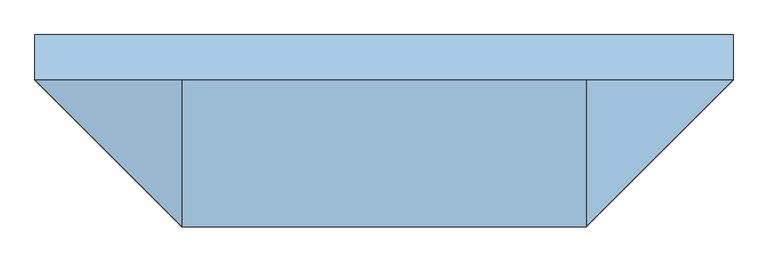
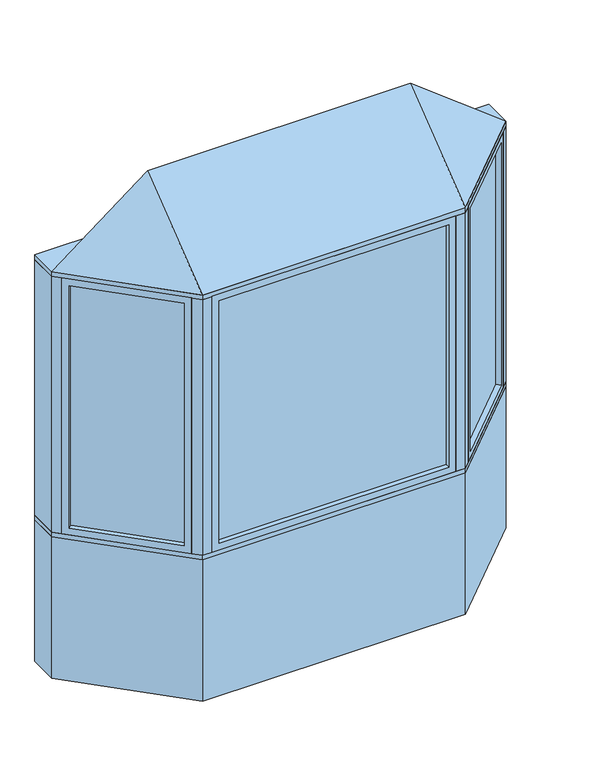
"""IFC4 building model written with IfcOpenShell, lengths in millimetres: window geometry, Pollard_Windows_Tudor Casement Bows and Bays : AML-BAY 45 AFR0614-12-600."""

from ifc_helpers import new_model, si_unit, frame, origin, origin_with_axes, place, context, project, spatial, polyline, outline, extrude, faceted_brep, source, transform, mapped, element, save


def window_9d663ffc(model_context):
    return source(origin(), model_context, "Body", "SolidModel", [
        extrude(outline(polyline([(1110.5964271, -104.763169), (714.974814, -500.3847822), (711.3827115, -496.7926797), (1107.0043247, -101.1710666), (1110.5964271, -104.763169)])), frame((0.0, 0.0, 823.1628), z_axis=(0.0, 0.0, 1.0), x_axis=(1.0, 0.0, 0.0)), (0.0, 0.0, 1.0), 1353.6704),
        faceted_brep([(1101.616171, -113.7434252, 835.8628), (1119.5766833, -131.7039374, 835.8628), (1119.5766833, -131.7039374, 2164.1332), (1101.616171, -113.7434252, 2164.1332), (1107.0043247, -101.1710666, 823.1628), (1110.5964271, -104.763169, 823.1628), (1110.5964271, -104.763169, 2176.8332), (1107.0043247, -101.1710666, 2176.8332), (1080.0635563, -92.1908105, 835.8628), (1098.0240686, -110.1513227, 835.8628), (1098.0240686, -110.1513227, 2164.1332), (1080.0635563, -92.1908105, 2164.1332), (1144.9369265, -106.3436941, 799.998), (1105.4237996, -66.8305672, 799.998), (1105.4237996, -66.8305672, 2199.998), (1144.9369265, -106.3436941, 2199.998), (741.9155823, -509.3650383, 2164.1332), (723.9550701, -491.4045261, 2164.1332), (714.974814, -500.3847822, 2176.8332), (711.3827115, -496.7926797, 2176.8332), (720.3629677, -487.8124236, 2164.1332), (702.4024554, -469.8519114, 2164.1332), (677.0422121, -495.2121547, 2199.998), (716.5553391, -534.7252816, 2199.998), (741.9155823, -509.3650383, 835.8628), (723.9550701, -491.4045261, 835.8628), (714.974814, -500.3847822, 823.1628), (711.3827115, -496.7926797, 823.1628), (720.3629677, -487.8124236, 835.8628), (702.4024554, -469.8519114, 835.8628), (677.0422121, -495.2121547, 799.998), (716.5553391, -534.7252816, 799.998)], [[[0, 1, 2, 3]], [[4, 5, 6, 7]], [[8, 9, 10, 11]], [[12, 13, 14, 15]], [[3, 2, 16, 17]], [[7, 6, 18, 19]], [[11, 10, 20, 21]], [[15, 14, 22, 23]], [[17, 16, 24, 25]], [[19, 18, 26, 27]], [[21, 20, 28, 29]], [[23, 22, 30, 31]], [[25, 24, 1, 0]], [[5, 26, 18, 6], [3, 17, 25, 0]], [[27, 26, 5, 4]], [[7, 19, 27, 4], [9, 28, 20, 10]], [[29, 28, 9, 8]], [[13, 30, 22, 14], [11, 21, 29, 8]], [[31, 30, 13, 12]], [[15, 23, 31, 12], [1, 24, 16, 2]]]),
        extrude(outline(polyline([(-714.974814, -500.3847822), (-1110.5964271, -104.763169), (-1107.0043247, -101.1710666), (-711.3827115, -496.7926797), (-714.974814, -500.3847822)])), frame((0.0, 0.0, 823.1628), z_axis=(0.0, 0.0, 1.0), x_axis=(1.0, 0.0, 0.0)), (0.0, 0.0, 1.0), 1353.6704),
        faceted_brep([(-720.3629677, -487.8124236, 2164.1332), (-702.4024554, -469.8519114, 2164.1332), (-702.4024554, -469.8519114, 835.8628), (-720.3629677, -487.8124236, 835.8628), (-714.974814, -500.3847822, 2176.8332), (-711.3827115, -496.7926797, 2176.8332), (-711.3827115, -496.7926797, 823.1628), (-714.974814, -500.3847822, 823.1628), (-741.9155823, -509.3650383, 2164.1332), (-723.9550701, -491.4045261, 2164.1332), (-723.9550701, -491.4045261, 835.8628), (-741.9155823, -509.3650383, 835.8628), (-677.0422121, -495.2121547, 2199.998), (-716.5553391, -534.7252816, 2199.998), (-716.5553391, -534.7252816, 799.998), (-677.0422121, -495.2121547, 799.998), (-1080.0635563, -92.1908105, 835.8628), (-1098.0240686, -110.1513227, 835.8628), (-1107.0043247, -101.1710666, 823.1628), (-1110.5964271, -104.763169, 823.1628), (-1101.616171, -113.7434252, 835.8628), (-1119.5766833, -131.7039374, 835.8628), (-1144.9369265, -106.3436941, 799.998), (-1105.4237996, -66.8305672, 799.998), (-1080.0635563, -92.1908105, 2164.1332), (-1098.0240686, -110.1513227, 2164.1332), (-1107.0043247, -101.1710666, 2176.8332), (-1110.5964271, -104.763169, 2176.8332), (-1101.616171, -113.7434252, 2164.1332), (-1119.5766833, -131.7039374, 2164.1332), (-1144.9369265, -106.3436941, 2199.998), (-1105.4237996, -66.8305672, 2199.998)], [[[0, 1, 2, 3]], [[4, 5, 6, 7]], [[8, 9, 10, 11]], [[12, 13, 14, 15]], [[3, 2, 16, 17]], [[7, 6, 18, 19]], [[11, 10, 20, 21]], [[15, 14, 22, 23]], [[17, 16, 24, 25]], [[19, 18, 26, 27]], [[21, 20, 28, 29]], [[23, 22, 30, 31]], [[15, 23, 31, 12], [1, 24, 16, 2]], [[25, 24, 1, 0]], [[5, 26, 18, 6], [3, 17, 25, 0]], [[27, 26, 5, 4]], [[7, 19, 27, 4], [9, 28, 20, 10]], [[29, 28, 9, 8]], [[13, 30, 22, 14], [11, 21, 29, 8]], [[31, 30, 13, 12]]]),
        extrude(outline(polyline([(608.0352, -544.6806207), (-608.0352, -544.6806207), (-608.0352, -539.6006207), (608.0352, -539.6006207), (608.0352, -544.6806207)])), frame((0.0, 0.0, 823.1628), z_axis=(0.0, 0.0, 1.0), x_axis=(1.0, 0.0, 0.0)), (0.0, 0.0, 1.0), 1353.6704),
        faceted_brep([(595.3352, -544.6806207, 835.8628), (595.3352, -570.0806207, 835.8628), (595.3352, -570.0806207, 2164.1332), (595.3352, -544.6806207, 2164.1332), (608.0352, -539.6006207, 823.1628), (608.0352, -544.6806207, 823.1628), (608.0352, -544.6806207, 2176.8332), (608.0352, -539.6006207, 2176.8332), (595.3352, -514.2006207, 835.8628), (595.3352, -539.6006207, 835.8628), (595.3352, -539.6006207, 2164.1332), (595.3352, -514.2006207, 2164.1332), (631.2, -570.0806207, 799.998), (631.2, -514.2006207, 799.998), (631.2, -514.2006207, 2199.998), (631.2, -570.0806207, 2199.998), (-595.3352, -570.0806207, 2164.1332), (-595.3352, -544.6806207, 2164.1332), (-608.0352, -544.6806207, 2176.8332), (-608.0352, -539.6006207, 2176.8332), (-595.3352, -539.6006207, 2164.1332), (-595.3352, -514.2006207, 2164.1332), (-631.2, -514.2006207, 2199.998), (-631.2, -570.0806207, 2199.998), (-595.3352, -570.0806207, 835.8628), (-595.3352, -544.6806207, 835.8628), (-608.0352, -544.6806207, 823.1628), (-608.0352, -539.6006207, 823.1628), (-595.3352, -539.6006207, 835.8628), (-595.3352, -514.2006207, 835.8628), (-631.2, -514.2006207, 799.998), (-631.2, -570.0806207, 799.998)], [[[0, 1, 2, 3]], [[4, 5, 6, 7]], [[8, 9, 10, 11]], [[12, 13, 14, 15]], [[3, 2, 16, 17]], [[7, 6, 18, 19]], [[11, 10, 20, 21]], [[15, 14, 22, 23]], [[17, 16, 24, 25]], [[19, 18, 26, 27]], [[21, 20, 28, 29]], [[23, 22, 30, 31]], [[15, 23, 31, 12], [1, 24, 16, 2]], [[25, 24, 1, 0]], [[5, 26, 18, 6], [3, 17, 25, 0]], [[27, 26, 5, 4]], [[7, 19, 27, 4], [9, 28, 20, 10]], [[29, 28, 9, 8]], [[13, 30, 22, 14], [11, 21, 29, 8]], [[31, 30, 13, 12]]]),
        faceted_brep([(1176.5, -74.7806207, 2225.398), (681.2, -570.0806207, 2225.398), (-681.2, -570.0806207, 2225.398), (-1176.5, -74.7806207, 2225.398), (-681.2, -74.7806207, 2606.398), (681.2, -74.7806207, 2606.398)], [[[0, 1, 2, 3]], [[3, 2, 4]], [[2, 1, 5, 4]], [[1, 0, 5]], [[0, 3, 4, 5]]]),
        extrude(outline(polyline([(-1176.5, 77.6193793), (1176.5, 77.6193793), (1176.5, -74.7806207), (681.2, -570.0806207), (-681.2, -570.0806207), (-1176.5, -74.7806207), (-1176.5, 77.6193793)])), frame((0.0, 0.0, 2199.998), z_axis=(0.0, 0.0, 1.0), x_axis=(1.0, 0.0, 0.0)), (0.0, 0.0, 1.0), 25.4),
        extrude(outline(polyline([(-1176.5, -74.7806207), (-1176.5, 77.6193793), (-1113.3738531, 77.6193793), (-1113.3738531, -74.7806207), (-1144.9369265, -106.3436941), (-1176.5, -74.7806207)])), frame((0.0, 0.0, 799.998), z_axis=(0.0, 0.0, 1.0), x_axis=(1.0, 0.0, 0.0)), (0.0, 0.0, 1.0), 1400.0),
        extrude(outline(polyline([(1176.5, 77.6193793), (1176.5, -74.7806207), (1144.9369265, -106.3436941), (1113.3738531, -74.7806207), (1113.3738531, 77.6193793), (1176.5, 77.6193793)])), frame((0.0, 0.0, 799.998), z_axis=(0.0, 0.0, 1.0), x_axis=(1.0, 0.0, 0.0)), (0.0, 0.0, 1.0), 1400.0),
        extrude(outline(polyline([(681.2, -570.0806207), (631.2, -570.0806207), (631.2, -520.0806207), (660.4893219, -520.0806207), (681.2, -499.3699425), (716.5553391, -534.7252816), (681.2, -570.0806207)])), frame((0.0, 0.0, 799.998), z_axis=(0.0, 0.0, 1.0), x_axis=(1.0, 0.0, 0.0)), (0.0, 0.0, 1.0), 1400.0),
        extrude(outline(polyline([(-681.2, -570.0806207), (-716.5553391, -534.7252816), (-681.2, -499.3699425), (-660.4893219, -520.0806207), (-631.2, -520.0806207), (-631.2, -570.0806207), (-681.2, -570.0806207)])), frame((0.0, 0.0, 799.998), z_axis=(0.0, 0.0, 1.0), x_axis=(1.0, 0.0, 0.0)), (0.0, 0.0, 1.0), 1400.0),
        extrude(outline(polyline([(-681.2, -570.0806207), (-1176.5, -74.7806207), (-1176.5, 77.6193793), (-1113.3738531, 77.6193793), (-618.0738531, -417.6806207), (618.0738531, -417.6806207), (1113.3738531, 77.6193793), (1176.5, 77.6193793), (1176.5, -74.7806207), (681.2, -570.0806207), (-681.2, -570.0806207)])), frame((0.0, 0.0, 774.598), z_axis=(0.0, 0.0, 1.0), x_axis=(1.0, 0.0, 0.0)), (0.0, 0.0, 1.0), 25.4),
        extrude(outline(polyline([(-1176.5, -74.7806207), (-1176.5, 77.6193793), (-1113.3738531, 77.6193793), (-618.0738531, -417.6806207), (618.0738531, -417.6806207), (1113.3738531, 77.6193793), (1176.5, 77.6193793), (1176.5, -74.7806207), (681.2, -570.0806207), (-681.2, -570.0806207), (-1176.5, -74.7806207)])), origin_with_axes(), (0.0, 0.0, 1.0), 774.598),
    ])


if __name__ == "__main__":
    model = new_model("IFC4")
    model_context = context("Model", 3, world=origin())
    ifc_project = project(units=[si_unit("LENGTHUNIT", "METRE", prefix="MILLI")], contexts=[model_context])
    site = spatial("IfcSite", under=ifc_project)
    building = spatial("IfcBuilding", under=site)
    placement = place(None, origin())
    window_shape = window_9d663ffc(model_context)
    element("IfcWindow", 1, ObjectType="Pollard_Windows_Tudor Casement Bows and Bays : AML-BAY 45 AFR0614-12-600", at=placement, inside=building, context=model_context, shape_type="MappedRepresentation", body=[
        mapped(window_shape, transform((0.0, 0.0, 0.0), x_axis=(1.0, 0.0, 0.0), y_axis=(0.0, 1.0, 0.0), z_axis=(0.0, 0.0, 1.0))),
    ])
    save(model, "model.ifc")
